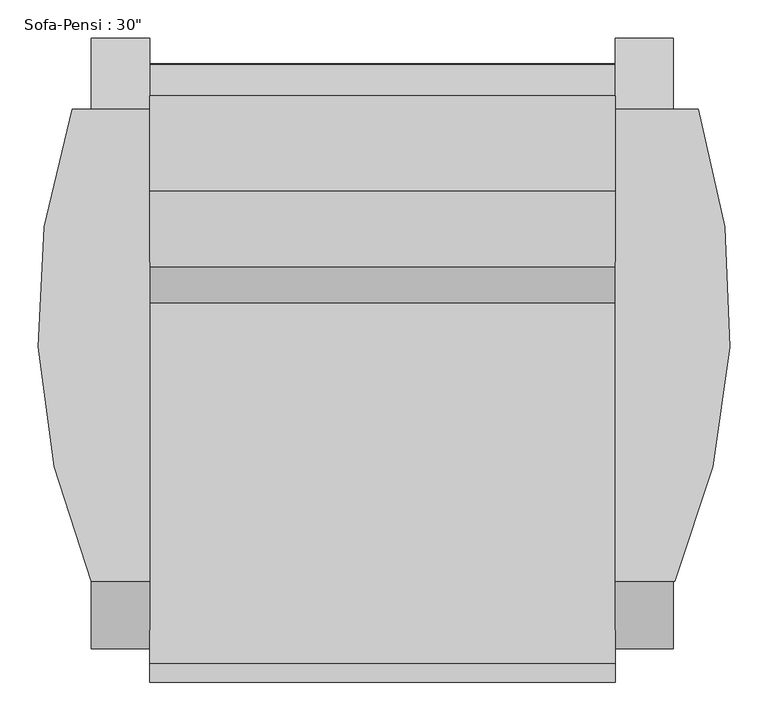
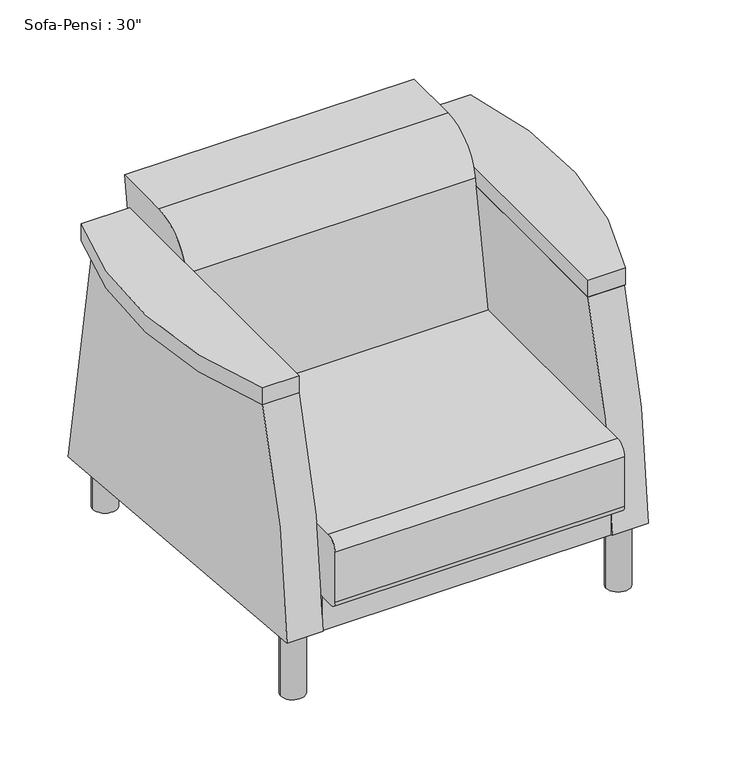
"""IFC4 building model written with IfcOpenShell, lengths in millimetres: furniture geometry."""

from ifc_helpers import new_model, si_unit, point, frame, frame_2d, origin, origin_with_axes, place, context, project, spatial, polyline, circle_curve, trimmed, segment, composite_curve, outline, extrude, source, transform, mapped, element, save


def furniture_ec003247(model_context):
    return source(origin(), model_context, "Body", "SweptSolid", [
        extrude(outline(composite_curve([segment(trimmed(circle_curve(frame_2d((-64.29375, -53.0901639)), 25.4), [point((-89.69375, -53.0901639))], [point((-38.89375, -53.0901639))], False, "CARTESIAN"), True, "CONTINUOUS"), segment(trimmed(circle_curve(frame_2d((-64.29375, -53.0901639)), 25.4), [point((-38.89375, -53.0901639))], [point((-89.69375, -53.0901639))], False, "CARTESIAN"), True, "CONTINUOUS")], self_intersect=False)), origin_with_axes(), (0.0, 0.0, 1.0), 148.43125),
        extrude(outline(composite_curve([segment(trimmed(circle_curve(frame_2d((-64.29375, 632.7098361)), 25.4), [point((-89.69375, 632.7098361))], [point((-38.89375, 632.7098361))], False, "CARTESIAN"), True, "CONTINUOUS"), segment(trimmed(circle_curve(frame_2d((-64.29375, 632.7098361)), 25.4), [point((-38.89375, 632.7098361))], [point((-89.69375, 632.7098361))], False, "CARTESIAN"), True, "CONTINUOUS")], self_intersect=False)), origin_with_axes(), (0.0, 0.0, 1.0), 148.43125),
        extrude(outline(composite_curve([segment(trimmed(circle_curve(frame_2d((621.50625, 632.7098361)), 25.4), [point((596.10625, 632.7098361))], [point((646.90625, 632.7098361))], False, "CARTESIAN"), True, "CONTINUOUS"), segment(trimmed(circle_curve(frame_2d((621.50625, 632.7098361)), 25.4), [point((646.90625, 632.7098361))], [point((596.10625, 632.7098361))], False, "CARTESIAN"), True, "CONTINUOUS")], self_intersect=False)), origin_with_axes(), (0.0, 0.0, 1.0), 148.43125),
        extrude(outline(composite_curve([segment(trimmed(circle_curve(frame_2d((621.50625, -53.0901639)), 25.4), [point((596.10625, -53.0901639))], [point((646.90625, -53.0901639))], False, "CARTESIAN"), True, "CONTINUOUS"), segment(trimmed(circle_curve(frame_2d((621.50625, -53.0901639)), 25.4), [point((646.90625, -53.0901639))], [point((596.10625, -53.0901639))], False, "CARTESIAN"), True, "CONTINUOUS")], self_intersect=False)), origin_with_axes(), (0.0, 0.0, 1.0), 148.43125),
        extrude(outline(polyline([(583.40625, 668.3047863), (583.40625, -93.6952137), (-26.19375, -93.6952137), (-26.19375, 668.3047863), (583.40625, 668.3047863)])), frame((0.0, 0.0, 148.0509954), z_axis=(0.0, 0.0, 1.0), x_axis=(1.0, 0.0, 0.0)), (0.0, 0.0, 1.0), 76.2),
        extrude(outline(composite_curve([segment(polyline([(-9.3943348, 626.0203985), (608.6917937, 626.0203985), (701.7619204, 79.3588346), (-97.7900405, 149.3105671)]), True, "CONTINUOUS"), segment(trimmed(circle_curve(frame_2d((1499.9783711, 99.5888442)), 1598.5418814), [point((-97.7900405, 149.3105671))], [point((-9.3943348, 626.0203985))], False, "CARTESIAN"), True, "CONTINUOUS")], self_intersect=False)), frame((-102.39375, 0.0, 0.0), z_axis=(1.0, 0.0, 0.0), x_axis=(0.0, 1.0, 0.0)), (0.0, 0.0, 1.0), 76.2),
        extrude(outline(composite_curve([segment(polyline([(701.7619204, 79.3588346), (-97.7900405, 149.3105671)]), True, "CONTINUOUS"), segment(trimmed(circle_curve(frame_2d((1499.9783711, 99.5888442)), 1598.5418814), [point((-97.7900405, 149.3105671))], [point((-9.3943348, 626.0203985))], False, "CARTESIAN"), True, "CONTINUOUS"), segment(polyline([(-9.3943348, 626.0203985), (608.6917937, 626.0203985), (701.7619204, 79.3588346)]), True, "CONTINUOUS")], self_intersect=False)), frame((583.40625, 0.0, 0.0), z_axis=(1.0, 0.0, 0.0), x_axis=(0.0, 1.0, 0.0)), (0.0, 0.0, 1.0), 76.2),
        extrude(outline(composite_curve([segment(trimmed(circle_curve(frame_2d((-116.5901639, 351.2509954)), 25.4), [point((-141.9901639, 351.2509954))], [point((-116.5901639, 376.6509954))], False, "CARTESIAN"), True, "CONTINUOUS"), segment(polyline([(-116.5901639, 376.6509954), (355.3895541, 376.6509954), (402.1988177, 642.1195211)]), True, "CONTINUOUS"), segment(trimmed(circle_curve(frame_2d((502.2552854, 624.4768662)), 101.6), [point((402.1988177, 642.1195211))], [point((502.2552854, 726.0768662))], False, "CARTESIAN"), True, "CONTINUOUS"), segment(polyline([(502.2552854, 726.0768662), (626.3344485, 726.0768662), (609.5377828, 620.1719187), (667.6541767, 224.2509954), (-126.1151639, 224.2509954)]), True, "CONTINUOUS"), segment(trimmed(circle_curve(frame_2d((-126.1151639, 240.1259954)), 15.875), [point((-126.1151639, 224.2509954))], [point((-141.9901639, 240.1259954))], False, "CARTESIAN"), True, "CONTINUOUS"), segment(polyline([(-141.9901639, 240.1259954), (-141.9901639, 351.2509954)]), True, "CONTINUOUS")], self_intersect=False)), frame((-26.19375, 0.0, 0.0), z_axis=(1.0, 0.0, 0.0), x_axis=(0.0, 1.0, 0.0)), (0.0, 0.0, 1.0), 609.6),
        extrude(outline(composite_curve([segment(polyline([(-26.19375, -9.3943348), (-102.39375, -9.3943348)]), True, "CONTINUOUS"), segment(trimmed(circle_curve(frame_2d((693.7527561, 332.8879501)), 866.6062668), [point((-102.39375, -9.3943348))], [point((-127.79375, 608.6917935))], False, "CARTESIAN"), True, "CONTINUOUS"), segment(polyline([(-127.79375, 608.6917935), (-26.19375, 608.6917935), (-26.19375, -9.3943348)]), True, "CONTINUOUS")], self_intersect=False)), frame((0.0, 0.0, 626.0203985), z_axis=(0.0, 0.0, 1.0), x_axis=(1.0, 0.0, 0.0)), (0.0, 0.0, 1.0), 38.1),
        extrude(outline(composite_curve([segment(polyline([(583.40625, -9.3943348), (583.40625, 608.9395268), (692.0864453, 608.9395268)]), True, "CONTINUOUS"), segment(trimmed(circle_curve(frame_2d((-135.5771494, 339.6641702)), 870.3655805), [point((692.0864453, 608.9395268))], [point((661.7273117, -9.3943348))], False, "CARTESIAN"), True, "CONTINUOUS"), segment(polyline([(661.7273117, -9.3943348), (583.40625, -9.3943348)]), True, "CONTINUOUS")], self_intersect=False)), frame((0.0, 0.0, 626.0203985), z_axis=(0.0, 0.0, 1.0), x_axis=(1.0, 0.0, 0.0)), (0.0, 0.0, 1.0), 38.1),
    ])


if __name__ == "__main__":
    model = new_model("IFC4")
    model_context = context("Model", 3, world=origin())
    ifc_project = project(units=[si_unit("LENGTHUNIT", "METRE", prefix="MILLI")], contexts=[model_context])
    site = spatial("IfcSite", under=ifc_project)
    building = spatial("IfcBuilding", under=site)
    placement = place(None, origin())
    furniture_shape = furniture_ec003247(model_context)
    element("IfcFurniture", 1, ObjectType="Sofa-Pensi : 30\"", at=placement, inside=building, context=model_context, shape_type="MappedRepresentation", body=[
        mapped(furniture_shape, transform((0.0, 0.0, 0.0), x_axis=(1.0, 0.0, 0.0), y_axis=(0.0, 1.0, 0.0), z_axis=(0.0, 0.0, 1.0))),
    ])
    save(model, "model.ifc")
